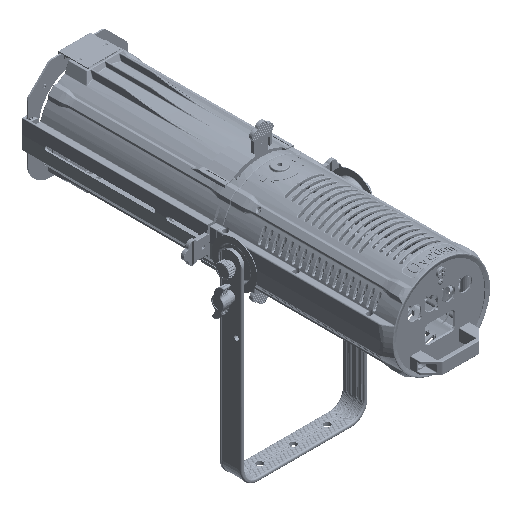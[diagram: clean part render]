
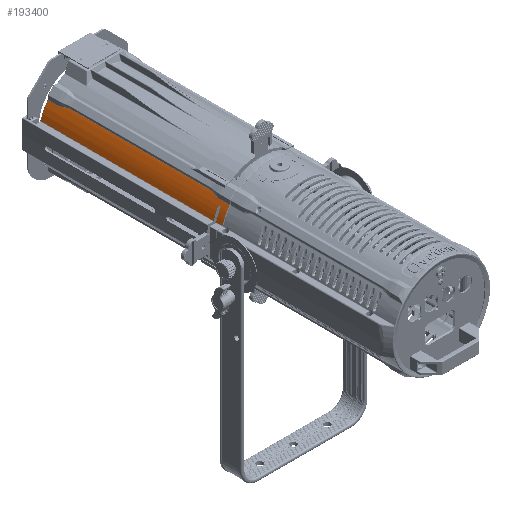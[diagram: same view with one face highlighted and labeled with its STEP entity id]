
A CAD part, isometric view. The second image highlights one B-rep face of the part: STEP entity #193400.
In plain terms, the highlighted cylindrical face has radius 86 mm (diameter 172 mm), a partial arc.
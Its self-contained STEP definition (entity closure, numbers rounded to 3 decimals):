
#146575=CARTESIAN_POINT('',(0.,-150.633,0.));
#146576=DIRECTION('',(0.,1.,0.));
#146577=DIRECTION('',(-0.954,0.,0.299));
#146578=AXIS2_PLACEMENT_3D('',#146575,#146576,#146577);
#146583=CARTESIAN_POINT('',(-82.07,-150.633,
25.701));
#152200=DIRECTION('',(0.,-1.,0.));
#152201=VECTOR('',#152200,11.104);
#152202=CARTESIAN_POINT('',(-82.07,-150.633,
25.701));
#152203=LINE('',#152202,#152201);
#152221=DIRECTION('',(0.,-1.,0.));
#152222=VECTOR('',#152221,307.271);
#152223=CARTESIAN_POINT('',(-82.07,160.905,
25.701));
#152224=LINE('',#152223,#152222);
#152235=DIRECTION('',(0.,1.,0.));
#152236=VECTOR('',#152235,3.276);
#152237=CARTESIAN_POINT('',(-73.287,-150.138,45.));
#152238=LINE('',#152237,#152236);
#152242=CARTESIAN_POINT('',(0.,160.905,0.));
#152243=DIRECTION('',(0.,1.,0.));
#152244=DIRECTION('',(-0.954,0.,0.299));
#152245=AXIS2_PLACEMENT_3D('',#152242,#152243,#152244);
#152250=DIRECTION('',(0.,-1.,0.));
#152251=VECTOR('',#152250,17.905);
#152252=CARTESIAN_POINT('',(-68.981,160.905,
51.358));
#152253=LINE('',#152252,#152251);
#152257=CARTESIAN_POINT('',(-68.981,143.,51.358));
#152258=CARTESIAN_POINT('',(-68.981,142.354,
51.358));
#152259=CARTESIAN_POINT('',(-68.934,141.019,
51.421));
#152260=CARTESIAN_POINT('',(-68.705,138.807,
51.727));
#152261=CARTESIAN_POINT('',(-68.362,136.615,
52.181));
#152262=CARTESIAN_POINT('',(-67.963,134.493,
52.699));
#152263=CARTESIAN_POINT('',(-67.574,132.554,
53.196));
#152264=CARTESIAN_POINT('',(-67.149,130.386,
53.732));
#152265=CARTESIAN_POINT('',(-66.738,128.013,
54.242));
#152266=CARTESIAN_POINT('',(-66.422,125.438,
54.627));
#152267=CARTESIAN_POINT('',(-66.347,123.81,
54.718));
#152268=CARTESIAN_POINT('',(-66.347,123.,54.718));
#152273=CARTESIAN_POINT('',(-66.347,-123.,54.718));
#152274=CARTESIAN_POINT('',(-66.347,-123.787,
54.718));
#152275=CARTESIAN_POINT('',(-66.418,-125.392,
54.632));
#152276=CARTESIAN_POINT('',(-66.737,-128.018,
54.243));
#152277=CARTESIAN_POINT('',(-67.166,-130.477,
53.712));
#152278=CARTESIAN_POINT('',(-67.597,-132.666,
53.168));
#152279=CARTESIAN_POINT('',(-67.975,-134.556,
52.684));
#152280=CARTESIAN_POINT('',(-68.371,-136.671,
52.168));
#152281=CARTESIAN_POINT('',(-68.712,-138.858,
51.718));
#152282=CARTESIAN_POINT('',(-68.936,-141.06,
51.418));
#152283=CARTESIAN_POINT('',(-68.981,-142.37,
51.358));
#152284=CARTESIAN_POINT('',(-68.981,-143.,51.358));
#152289=CARTESIAN_POINT('',(0.,-161.737,0.));
#152290=DIRECTION('',(0.,1.,0.));
#152291=DIRECTION('',(-0.954,0.,0.299));
#152292=AXIS2_PLACEMENT_3D('',#152289,#152290,#152291);
#152949=CARTESIAN_POINT('',(-73.287,-150.138,45.));
#152950=CARTESIAN_POINT('',(-73.287,-150.226,
45.));
#152951=CARTESIAN_POINT('',(-73.311,-150.38,
44.961));
#152952=CARTESIAN_POINT('',(-73.424,-150.58,
44.776));
#152953=CARTESIAN_POINT('',(-73.528,-150.633,
44.605));
#152954=CARTESIAN_POINT('',(-73.589,-150.633,
44.505));
#152988=CARTESIAN_POINT('',(-73.589,-146.366,
44.505));
#152989=CARTESIAN_POINT('',(-73.529,-146.366,
44.605));
#152990=CARTESIAN_POINT('',(-73.425,-146.419,
44.774));
#152991=CARTESIAN_POINT('',(-73.311,-146.618,
44.961));
#152992=CARTESIAN_POINT('',(-73.287,-146.774,
45.));
#152993=CARTESIAN_POINT('',(-73.287,-146.862,45.));
#153142=CARTESIAN_POINT('',(0.,-146.366,0.));
#153143=DIRECTION('',(0.,1.,0.));
#153144=DIRECTION('',(-0.954,0.,0.299));
#153145=AXIS2_PLACEMENT_3D('',#153142,#153143,#153144);
#167964=CARTESIAN_POINT('',(-68.981,-161.737,
51.358));
#167973=DIRECTION('',(0.,1.,0.));
#167974=VECTOR('',#167973,18.737);
#167975=CARTESIAN_POINT('',(-68.981,-161.737,
51.358));
#167976=LINE('',#167975,#167974);
#168003=DIRECTION('',(0.,1.,0.));
#168004=VECTOR('',#168003,246.);
#168005=CARTESIAN_POINT('',(-66.347,-123.,54.718));
#168006=LINE('',#168005,#168004);
#185282=VERTEX_POINT('',#152273);
#185283=VERTEX_POINT('',#152284);
#185659=VERTEX_POINT('',#167964);
#185661=CARTESIAN_POINT('',(-82.07,-161.737,
25.701));
#185662=VERTEX_POINT('',#185661);
#186964=CARTESIAN_POINT('',(-82.07,160.905,
25.701));
#186965=CARTESIAN_POINT('',(-68.981,160.905,
51.358));
#186966=VERTEX_POINT('',#186964);
#186967=VERTEX_POINT('',#186965);
#186986=CARTESIAN_POINT('',(-82.07,-146.366,
25.701));
#186987=VERTEX_POINT('',#186986);
#187506=VERTEX_POINT('',#152949);
#187507=VERTEX_POINT('',#152954);
#187510=VERTEX_POINT('',#152988);
#187511=VERTEX_POINT('',#152993);
#189199=VERTEX_POINT('',#152257);
#189200=VERTEX_POINT('',#152268);
#189637=VERTEX_POINT('',#146583);
#193368=CARTESIAN_POINT('',(0.,-163.,0.));
#193369=DIRECTION('',(0.,1.,0.));
#193370=DIRECTION('',(1.,0.,0.));
#193371=AXIS2_PLACEMENT_3D('',#193368,#193369,#193370);
#193372=CYLINDRICAL_SURFACE('',#193371,86.);
#193373=ORIENTED_EDGE('',*,*,#190273,.T.);
#193375=ORIENTED_EDGE('',*,*,#193374,.F.);
#193377=ORIENTED_EDGE('',*,*,#193376,.T.);
#193379=ORIENTED_EDGE('',*,*,#193378,.F.);
#193381=ORIENTED_EDGE('',*,*,#193380,.F.);
#193382=ORIENTED_EDGE('',*,*,#193360,.F.);
#193384=ORIENTED_EDGE('',*,*,#193383,.T.);
#193386=ORIENTED_EDGE('',*,*,#193385,.T.);
#193388=ORIENTED_EDGE('',*,*,#193387,.T.);
#193390=ORIENTED_EDGE('',*,*,#193389,.F.);
#193392=ORIENTED_EDGE('',*,*,#193391,.T.);
#193394=ORIENTED_EDGE('',*,*,#193393,.F.);
#193396=ORIENTED_EDGE('',*,*,#193395,.F.);
#193397=ORIENTED_EDGE('',*,*,#193348,.F.);
#193398=EDGE_LOOP('',(#193373,#193375,#193377,#193379,#193381,#193382,#193384,
#193386,#193388,#193390,#193392,#193394,#193396,#193397));
#193399=FACE_OUTER_BOUND('',#193398,.F.);
#146579=CIRCLE('',#146578,86.);
#152246=CIRCLE('',#152245,86.);
#152269=B_SPLINE_CURVE_WITH_KNOTS('',3,(#152257,#152258,#152259,#152260,#152261,
#152262,#152263,#152264,#152265,#152266,#152267,#152268),.UNSPECIFIED.,.F.,.F.,(
4,1,1,1,1,1,1,1,1,4),(0.,0.111,0.222,
0.333,0.444,0.556,0.667,
0.778,0.889,1.),.UNSPECIFIED.);
#152285=B_SPLINE_CURVE_WITH_KNOTS('',3,(#152273,#152274,#152275,#152276,#152277,
#152278,#152279,#152280,#152281,#152282,#152283,#152284),.UNSPECIFIED.,.F.,.F.,(
4,1,1,1,1,1,1,1,1,4),(0.,0.111,0.222,
0.333,0.444,0.556,0.667,
0.778,0.889,1.),.UNSPECIFIED.);
#152293=CIRCLE('',#152292,86.);
#152955=B_SPLINE_CURVE_WITH_KNOTS('',3,(#152949,#152950,#152951,#152952,#152953,
#152954),.UNSPECIFIED.,.F.,.F.,(4,1,1,4),(0.,0.333,
0.667,1.),.UNSPECIFIED.);
#152994=B_SPLINE_CURVE_WITH_KNOTS('',3,(#152988,#152989,#152990,#152991,#152992,
#152993),.UNSPECIFIED.,.F.,.F.,(4,1,1,4),(0.,0.333,
0.667,1.),.UNSPECIFIED.);
#153146=CIRCLE('',#153145,86.);
#190273=EDGE_CURVE('',#189637,#187507,#146579,.T.);
#193348=EDGE_CURVE('',#189637,#185662,#152203,.T.);
#193360=EDGE_CURVE('',#186966,#186987,#152224,.T.);
#193374=EDGE_CURVE('',#187506,#187507,#152955,.T.);
#193376=EDGE_CURVE('',#187506,#187511,#152238,.T.);
#193378=EDGE_CURVE('',#187510,#187511,#152994,.T.);
#193380=EDGE_CURVE('',#186987,#187510,#153146,.T.);
#193383=EDGE_CURVE('',#186966,#186967,#152246,.T.);
#193385=EDGE_CURVE('',#186967,#189199,#152253,.T.);
#193387=EDGE_CURVE('',#189199,#189200,#152269,.T.);
#193389=EDGE_CURVE('',#185282,#189200,#168006,.T.);
#193391=EDGE_CURVE('',#185282,#185283,#152285,.T.);
#193393=EDGE_CURVE('',#185659,#185283,#167976,.T.);
#193395=EDGE_CURVE('',#185662,#185659,#152293,.T.);
#193400=ADVANCED_FACE('',(#193399),#193372,.T.);
